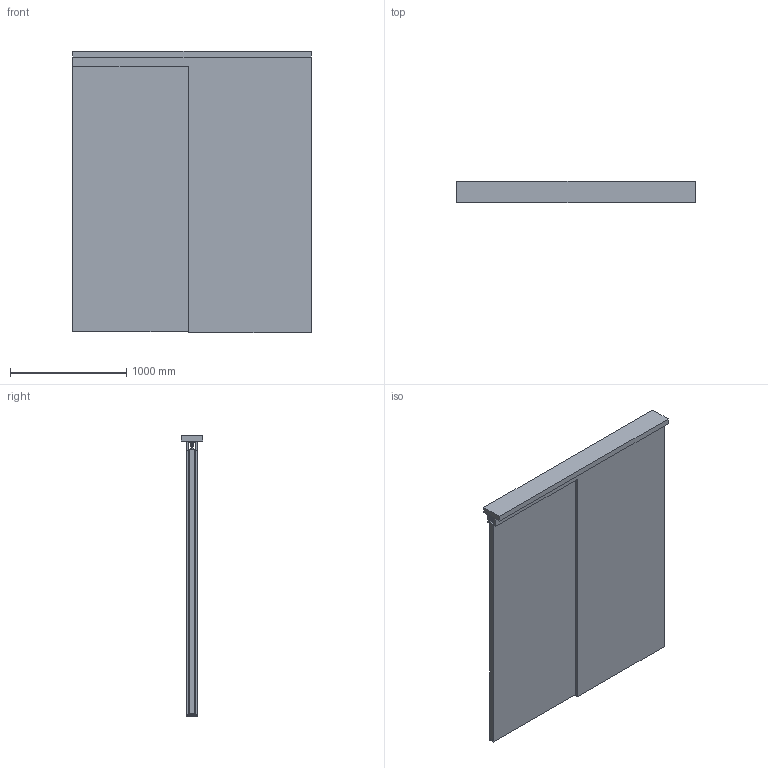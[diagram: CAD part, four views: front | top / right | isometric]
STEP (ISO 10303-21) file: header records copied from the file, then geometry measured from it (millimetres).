
FILE_DESCRIPTION(('STEP AP242'),'1');
FILE_NAME('OPO_65.080.26.stp','2026-01-14T05:28:06',(' '),(' '),'Spatial InterOp 3D',' ',' ');
FILE_SCHEMA(('AP242_MANAGED_MODEL_BASED_3D_ENGINEERING_MIM_LF {1 0 10303 442 1 1 4}'));
Length unit declared in the file: millimetre
Products named in the file (10): Zeichnung2; OPO_65.080.26_Aufhaengung_Holz; OPO_65.082.78; OPO_65.080.26_Laufwerk; OPO_65.080.26_Laufwerk_mit_Daempfer; OPO_65.080.26_Aktivator; OPO_65.082.61; OPO_65.080.26_Aktivator_lang; OPO_65.080.26_Bodenfuehrung_Pocket_Holz; AutoCreatedBlock_202
Assembly tree (11 placements, depth 2):
  Zeichnung2
    OPO_65.080.26_Aufhaengung_Holz  x2
    OPO_65.082.78  x2
    OPO_65.080.26_Laufwerk
    OPO_65.080.26_Laufwerk_mit_Daempfer
    OPO_65.080.26_Aktivator
    OPO_65.082.61
    OPO_65.080.26_Aktivator_lang
    OPO_65.080.26_Bodenfuehrung_Pocket_Holz
    AutoCreatedBlock_202
Bounding box: 2050.5 x 188 x 2418 mm (x, y, z)
Volume: 212825033.4 mm3; surface area: 17820415.3 mm2
Topology: 81 solids, 81 shells, 1670 faces, 4304 edges, 2841 vertices
Faces by surface type: plane 1006, cylinder 636, cone 28
Entity records: 54807 total; most frequent: CARTESIAN_POINT 7661, DIRECTION 7589, ORIENTED_EDGE 7230, EDGE_CURVE 3615, AXIS2_PLACEMENT_3D 2557, LINE 2475, VECTOR 2475, VERTEX_POINT 2391
